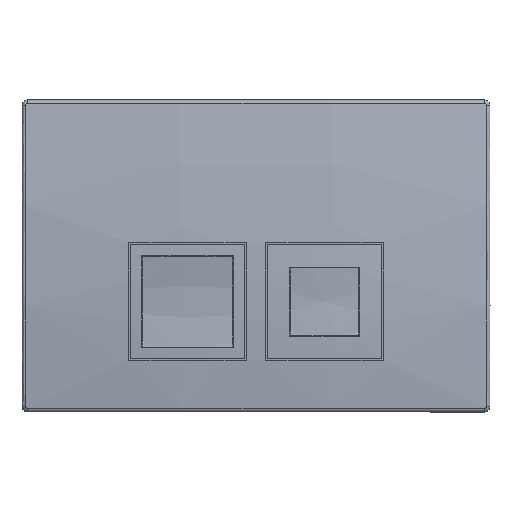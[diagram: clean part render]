
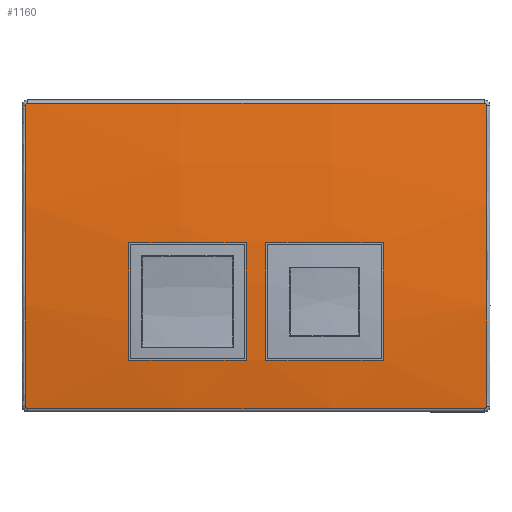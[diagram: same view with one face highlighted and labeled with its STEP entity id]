
A CAD part, front view. The second image highlights one B-rep face of the part: STEP entity #1160.
In plain terms, the highlighted free-form (B-spline) face has degree [5, 3] with [6, 4] control points.
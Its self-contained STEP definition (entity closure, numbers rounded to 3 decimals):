
#33=FACE_BOUND('',#177,.T.);
#34=FACE_BOUND('',#178,.T.);
#37=ELLIPSE('',#1278,1193.651,1033.645);
#38=ELLIPSE('',#1280,1193.651,1033.645);
#39=ELLIPSE('',#1283,1193.653,1033.648);
#40=ELLIPSE('',#1285,1193.653,1033.648);
#54=B_SPLINE_SURFACE_WITH_KNOTS('',5,3,((#2389,#2390,#2391,#2392),(#2393,
#2394,#2395,#2396),(#2397,#2398,#2399,#2400),(#2401,#2402,#2403,#2404),
(#2405,#2406,#2407,#2408),(#2409,#2410,#2411,#2412)),.UNSPECIFIED.,.F.,
 .F.,.F.,(6,6),(4,4),(0.,1.),(0.,
1.),.UNSPECIFIED.);
#102=FACE_OUTER_BOUND('',#176,.T.);
#176=EDGE_LOOP('',(#781,#782,#783,#784,#785,#786,#787,#788));
#177=EDGE_LOOP('',(#789,#790,#791,#792));
#178=EDGE_LOOP('',(#793,#794,#795,#796));
#379=CIRCLE('',#1262,0.994);
#381=CIRCLE('',#1265,1369.295);
#383=CIRCLE('',#1267,0.994);
#385=CIRCLE('',#1269,611.119);
#387=CIRCLE('',#1271,0.996);
#389=CIRCLE('',#1274,1375.658);
#391=CIRCLE('',#1276,0.997);
#392=CIRCLE('',#1277,611.555);
#393=CIRCLE('',#1279,613.676);
#394=CIRCLE('',#1281,612.846);
#395=CIRCLE('',#1282,613.695);
#396=CIRCLE('',#1284,613.087);
#461=VERTEX_POINT('',#1853);
#462=VERTEX_POINT('',#1855);
#463=VERTEX_POINT('',#1859);
#464=VERTEX_POINT('',#1952);
#465=VERTEX_POINT('',#2045);
#466=VERTEX_POINT('',#2168);
#467=VERTEX_POINT('',#2172);
#468=VERTEX_POINT('',#2295);
#469=VERTEX_POINT('',#2413);
#470=VERTEX_POINT('',#2414);
#471=VERTEX_POINT('',#2416);
#472=VERTEX_POINT('',#2418);
#473=VERTEX_POINT('',#2421);
#474=VERTEX_POINT('',#2422);
#475=VERTEX_POINT('',#2424);
#476=VERTEX_POINT('',#2426);
#571=EDGE_CURVE('',#461,#462,#379,.T.);
#573=EDGE_CURVE('',#463,#461,#381,.T.);
#575=EDGE_CURVE('',#464,#463,#383,.T.);
#577=EDGE_CURVE('',#465,#464,#385,.T.);
#579=EDGE_CURVE('',#466,#465,#387,.T.);
#581=EDGE_CURVE('',#467,#466,#389,.T.);
#583=EDGE_CURVE('',#468,#467,#391,.T.);
#584=EDGE_CURVE('',#462,#468,#392,.T.);
#585=EDGE_CURVE('',#469,#470,#37,.T.);
#586=EDGE_CURVE('',#471,#470,#393,.T.);
#587=EDGE_CURVE('',#471,#472,#38,.T.);
#588=EDGE_CURVE('',#469,#472,#394,.T.);
#589=EDGE_CURVE('',#473,#474,#395,.T.);
#590=EDGE_CURVE('',#474,#475,#39,.T.);
#591=EDGE_CURVE('',#475,#476,#396,.T.);
#592=EDGE_CURVE('',#476,#473,#40,.T.);
#781=ORIENTED_EDGE('',*,*,#577,.T.);
#782=ORIENTED_EDGE('',*,*,#575,.T.);
#783=ORIENTED_EDGE('',*,*,#573,.T.);
#784=ORIENTED_EDGE('',*,*,#571,.T.);
#785=ORIENTED_EDGE('',*,*,#584,.T.);
#786=ORIENTED_EDGE('',*,*,#583,.T.);
#787=ORIENTED_EDGE('',*,*,#581,.T.);
#788=ORIENTED_EDGE('',*,*,#579,.T.);
#789=ORIENTED_EDGE('',*,*,#585,.T.);
#790=ORIENTED_EDGE('',*,*,#586,.F.);
#791=ORIENTED_EDGE('',*,*,#587,.T.);
#792=ORIENTED_EDGE('',*,*,#588,.F.);
#793=ORIENTED_EDGE('',*,*,#589,.T.);
#794=ORIENTED_EDGE('',*,*,#590,.T.);
#795=ORIENTED_EDGE('',*,*,#591,.T.);
#796=ORIENTED_EDGE('',*,*,#592,.T.);
#1160=ADVANCED_FACE('',(#102,#33,#34),#54,.T.);
#1262=AXIS2_PLACEMENT_3D('',#1857,#1425,#1426);
#1265=AXIS2_PLACEMENT_3D('',#1861,#1431,#1432);
#1267=AXIS2_PLACEMENT_3D('',#1954,#1435,#1436);
#1269=AXIS2_PLACEMENT_3D('',#2047,#1439,#1440);
#1271=AXIS2_PLACEMENT_3D('',#2170,#1443,#1444);
#1274=AXIS2_PLACEMENT_3D('',#2174,#1449,#1450);
#1276=AXIS2_PLACEMENT_3D('',#2297,#1453,#1454);
#1277=AXIS2_PLACEMENT_3D('',#2388,#1455,#1456);
#1278=AXIS2_PLACEMENT_3D('',#2415,#1457,#1458);
#1279=AXIS2_PLACEMENT_3D('',#2417,#1459,#1460);
#1280=AXIS2_PLACEMENT_3D('',#2419,#1461,#1462);
#1281=AXIS2_PLACEMENT_3D('',#2420,#1463,#1464);
#1282=AXIS2_PLACEMENT_3D('',#2423,#1465,#1466);
#1283=AXIS2_PLACEMENT_3D('',#2425,#1467,#1468);
#1284=AXIS2_PLACEMENT_3D('',#2427,#1469,#1470);
#1285=AXIS2_PLACEMENT_3D('',#2428,#1471,#1472);
#1425=DIRECTION('center_axis',(-0.082,-0.982,0.169));
#1426=DIRECTION('ref_axis',(0.011,0.168,0.986));
#1431=DIRECTION('center_axis',(0.,0.,
-1.));
#1432=DIRECTION('ref_axis',(0.092,-0.996,0.));
#1435=DIRECTION('center_axis',(0.09,-0.982,0.169));
#1436=DIRECTION('ref_axis',(0.996,0.087,-0.024));
#1439=DIRECTION('center_axis',(-1.,0.,
0.));
#1440=DIRECTION('ref_axis',(0.,-0.996,-0.09));
#1443=DIRECTION('center_axis',(0.091,-0.992,-0.09));
#1444=DIRECTION('ref_axis',(-0.009,0.09,-0.996));
#1449=DIRECTION('center_axis',(0.,0.,
1.));
#1450=DIRECTION('ref_axis',(-0.083,-0.997,0.));
#1453=DIRECTION('center_axis',(-0.083,-0.992,-0.09));
#1454=DIRECTION('ref_axis',(-0.997,0.082,0.01));
#1455=DIRECTION('center_axis',(1.,0.,
0.));
#1456=DIRECTION('ref_axis',(0.,-0.986,0.169));
#1457=DIRECTION('center_axis',(0.,0.,
-1.));
#1458=DIRECTION('ref_axis',(-1.,-0.004,0.));
#1459=DIRECTION('center_axis',(1.,0.,0.));
#1460=DIRECTION('ref_axis',(0.,-0.999,-0.05));
#1461=DIRECTION('center_axis',(0.,0.,
1.));
#1462=DIRECTION('ref_axis',(-1.,-0.004,0.));
#1463=DIRECTION('center_axis',(-1.,0.,0.));
#1464=DIRECTION('ref_axis',(0.,-0.999,0.05));
#1465=DIRECTION('center_axis',(1.,0.,0.));
#1466=DIRECTION('ref_axis',(0.,-0.999,-0.05));
#1467=DIRECTION('center_axis',(0.,0.,
-1.));
#1468=DIRECTION('ref_axis',(-1.,-0.004,0.));
#1469=DIRECTION('center_axis',(-1.,0.,0.));
#1470=DIRECTION('ref_axis',(0.,-0.999,0.05));
#1471=DIRECTION('center_axis',(0.,0.,
1.));
#1472=DIRECTION('ref_axis',(-1.,-0.004,0.));
#1853=CARTESIAN_POINT('',(-120.165,-11.273,80.34));
#1855=CARTESIAN_POINT('',(-121.166,-11.362,79.337));
#1857=CARTESIAN_POINT('Origin',(-120.175,-11.441,79.36));
#1859=CARTESIAN_POINT('',(120.181,-10.289,80.34));
#1861=CARTESIAN_POINT('Origin',(-5.58,1353.219,80.34));
#1952=CARTESIAN_POINT('',(121.183,-10.369,79.337));
#1954=CARTESIAN_POINT('Origin',(120.193,-10.456,79.361));
#2045=CARTESIAN_POINT('',(121.184,-16.673,-79.18));
#2047=CARTESIAN_POINT('Origin',(121.082,591.95,-24.));
#2168=CARTESIAN_POINT('',(120.183,-16.673,-80.183));
#2170=CARTESIAN_POINT('Origin',(120.192,-16.763,-79.191));
#2172=CARTESIAN_POINT('',(-120.165,-17.653,-80.183));
#2174=CARTESIAN_POINT('Origin',(-5.58,1353.224,-80.183));
#2295=CARTESIAN_POINT('',(-121.167,-17.661,-79.18));
#2297=CARTESIAN_POINT('Origin',(-120.173,-17.743,-79.19));
#2388=CARTESIAN_POINT('Origin',(-121.074,591.4,-24.));
#2389=CARTESIAN_POINT('Ctrl Pts',(121.738,-16.529,-80.183));
#2390=CARTESIAN_POINT('Ctrl Pts',(40.829,-24.054,-80.183));
#2391=CARTESIAN_POINT('Ctrl Pts',(-40.748,-24.387,-80.183));
#2392=CARTESIAN_POINT('Ctrl Pts',(-121.716,-17.523,-80.183));
#2393=CARTESIAN_POINT('Ctrl Pts',(121.999,-19.468,-48.096));
#2394=CARTESIAN_POINT('Ctrl Pts',(40.916,-27.008,-48.096));
#2395=CARTESIAN_POINT('Ctrl Pts',(-40.836,-27.341,-48.096));
#2396=CARTESIAN_POINT('Ctrl Pts',(-121.977,-20.461,-48.096));
#2397=CARTESIAN_POINT('Ctrl Pts',(122.074,-20.309,-15.815));
#2398=CARTESIAN_POINT('Ctrl Pts',(40.941,-27.853,-15.815));
#2399=CARTESIAN_POINT('Ctrl Pts',(-40.861,-28.186,-15.815));
#2400=CARTESIAN_POINT('Ctrl Pts',(-122.052,-21.302,-15.815));
#2401=CARTESIAN_POINT('Ctrl Pts',(121.961,-19.035,16.475));
#2402=CARTESIAN_POINT('Ctrl Pts',(40.903,-26.573,16.475));
#2403=CARTESIAN_POINT('Ctrl Pts',(-40.823,-26.905,16.475));
#2404=CARTESIAN_POINT('Ctrl Pts',(-121.939,-20.028,16.475));
#2405=CARTESIAN_POINT('Ctrl Pts',(121.66,-15.653,48.588));
#2406=CARTESIAN_POINT('Ctrl Pts',(40.802,-23.174,48.588));
#2407=CARTESIAN_POINT('Ctrl Pts',(-40.722,-23.507,48.588));
#2408=CARTESIAN_POINT('Ctrl Pts',(-121.639,-16.647,48.588));
#2409=CARTESIAN_POINT('Ctrl Pts',(121.175,-10.196,80.341));
#2410=CARTESIAN_POINT('Ctrl Pts',(40.64,-17.688,80.341));
#2411=CARTESIAN_POINT('Ctrl Pts',(-40.56,-18.021,80.341));
#2412=CARTESIAN_POINT('Ctrl Pts',(-121.154,-11.19,80.341));
#2413=CARTESIAN_POINT('',(66.9,-22.325,-54.9));
#2414=CARTESIAN_POINT('',(5.1,-24.191,-54.9));
#2415=CARTESIAN_POINT('Origin',(-4.199,1009.415,-54.9));
#2416=CARTESIAN_POINT('',(5.1,-24.191,6.9));
#2417=CARTESIAN_POINT('Origin',(5.1,588.707,-24.));
#2418=CARTESIAN_POINT('',(66.9,-22.325,6.9));
#2419=CARTESIAN_POINT('Origin',(-4.199,1009.415,6.9));
#2420=CARTESIAN_POINT('Origin',(66.9,589.742,-24.));
#2421=CARTESIAN_POINT('',(-5.1,-24.232,6.9));
#2422=CARTESIAN_POINT('',(-5.1,-24.232,-54.9));
#2423=CARTESIAN_POINT('Origin',(-5.1,588.684,-24.));
#2424=CARTESIAN_POINT('',(-66.9,-22.868,-54.9));
#2425=CARTESIAN_POINT('Origin',(-4.16,1009.418,-54.9));
#2426=CARTESIAN_POINT('',(-66.9,-22.868,6.9));
#2427=CARTESIAN_POINT('Origin',(-66.9,589.441,-24.));
#2428=CARTESIAN_POINT('Origin',(-4.16,1009.418,6.9));
